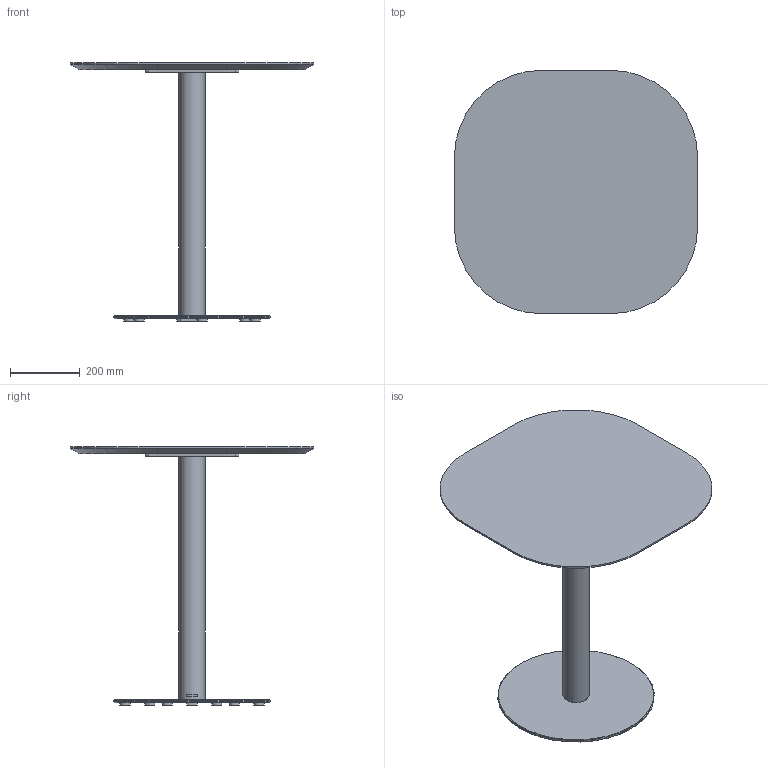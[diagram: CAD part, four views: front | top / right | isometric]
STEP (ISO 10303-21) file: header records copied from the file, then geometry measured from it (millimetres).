
FILE_DESCRIPTION( ('This file contains a STEP AP42 implementation' ,'as created by ZW3D STEP Interface translator.') ,'2;1' );
FILE_NAME( 'Henri - B_Rond - F2 - M5 - 700 x 700 x 750.stp' ,'24 912.153224', (''), ('ZWCAD Software Co.'), 'Version 1.0', 'ZW3D to STEP translator', '' );
FILE_SCHEMA(('AUTOMOTIVE_DESIGN { 1 0 10303 214 1 1 1 1 }'));
Length unit declared in the file: millimetre
Products named in the file (14): 0; PIED BISTROT PARAMETRIQUE_; COLONNE ACIER Ø76 V.02_; TUB-D076-02_; PLA-R76B-01_; SOCLE ACIER C Ø450 V.02_; SCL-D450-02_; PLA-R30A-01_; PLA-R30A-01; CROIX ACIER 370 V.02_; CRX-X370-02_; WUERTH 0276063020 Euro-screw 6.3x2 Verzinkt_; PLATEAU BISTROT PARAMETRIQUE_; insert_m6_13_
Assembly tree (24 placements, depth 3):
  0
  PIED BISTROT PARAMETRIQUE_
    COLONNE ACIER Ø76 V.02_
      TUB-D076-02_
      PLA-R76B-01_  x2
    SOCLE ACIER C Ø450 V.02_
      SCL-D450-02_
      PLA-R30A-01_
      PLA-R30A-01  x5
    CROIX ACIER 370 V.02_
      CRX-X370-02_
    WUERTH 0276063020 Euro-screw 6.3x2 Verzinkt_
    PLATEAU BISTROT PARAMETRIQUE_
      insert_m6_13_  x8
Bounding box: 700 x 700 x 744 mm (x, y, z)
Volume: 10497991.1 mm3; surface area: 1748490.2 mm2
Topology: 21 solids, 21 shells, 516 faces, 1257 edges, 794 vertices
Faces by surface type: plane 250, bspline 121, cylinder 99, cone 45, torus 1
Full cylindrical faces by diameter (mm): 4.88 x1, 6 x8, 6.3 x1, 8 x47, 12 x2, 14 x2, 30 x6, 72 x1, 76 x1, 450 x1
Entity records: 11530 total; most frequent: CARTESIAN_POINT 3270, ORIENTED_EDGE 1494, DIRECTION 1388, EDGE_CURVE 747, VERTEX_POINT 482, VECTOR 464, LINE 464, AXIS2_PLACEMENT_3D 462
